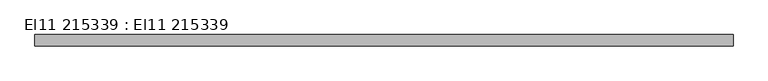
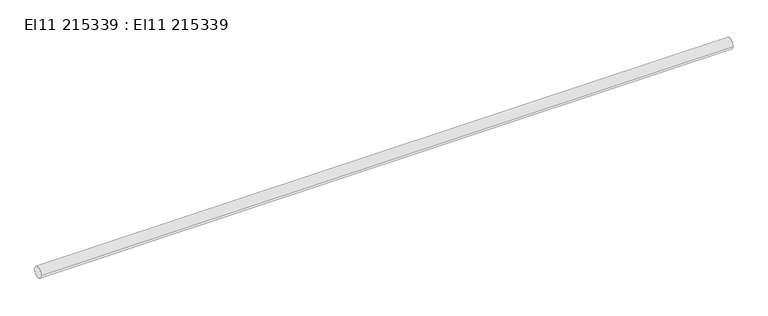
"""IFC4 building model written with IfcOpenShell, lengths in millimetres: cable carrier segment geometry, El11 215339 : El11 215339."""

from ifc_helpers import new_model, si_unit, point, frame, frame_2d, origin, place, context, project, spatial, circle_curve, trimmed, segment, composite_curve, outline, extrude, source, transform, mapped, element, save


def el11_215339_el11_215339_e4c9040f(model_context):
    return source(origin(), model_context, "Body", "SweptSolid", [
        extrude(outline(composite_curve([segment(trimmed(circle_curve(frame_2d((17022.1, 4200.0)), 9.5), [point((17012.6, 4200.0))], [point((17031.6, 4200.0))], False, "CARTESIAN"), True, "CONTINUOUS"), segment(trimmed(circle_curve(frame_2d((17022.1, 4200.0)), 9.5), [point((17031.6, 4200.0))], [point((17012.6, 4200.0))], False, "CARTESIAN"), True, "CONTINUOUS")], self_intersect=False)), frame((26902.246, 0.0, 0.0), z_axis=(1.0, 0.0, 0.0), x_axis=(0.0, 1.0, 0.0)), (0.0, 0.0, 1.0), 1182.71),
    ])


if __name__ == "__main__":
    model = new_model("IFC4")
    model_context = context("Model", 3, world=origin())
    ifc_project = project(units=[si_unit("LENGTHUNIT", "METRE", prefix="MILLI")], contexts=[model_context])
    site = spatial("IfcSite", under=ifc_project)
    building = spatial("IfcBuilding", under=site)
    placement = place(None, origin())
    el11_215339_el11_215339_shape = el11_215339_el11_215339_e4c9040f(model_context)
    element("IfcCableCarrierSegment", 1, ObjectType="El11 215339 : El11 215339", at=placement, inside=building, context=model_context, shape_type="MappedRepresentation", body=[
        mapped(el11_215339_el11_215339_shape, transform((0.0, 0.0, 0.0), x_axis=(1.0, 0.0, 0.0), y_axis=(0.0, 1.0, 0.0), z_axis=(0.0, 0.0, 1.0))),
    ])
    save(model, "model.ifc")
